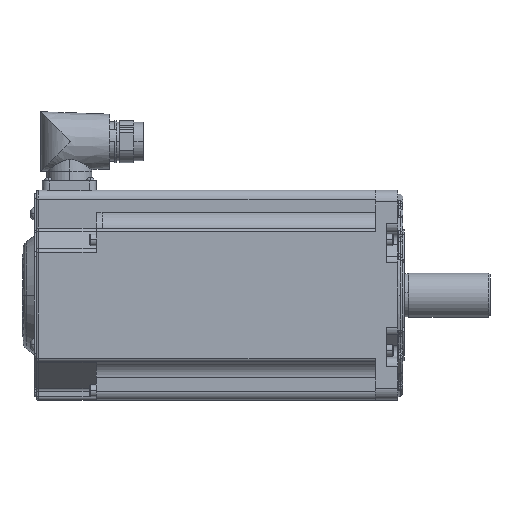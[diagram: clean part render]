
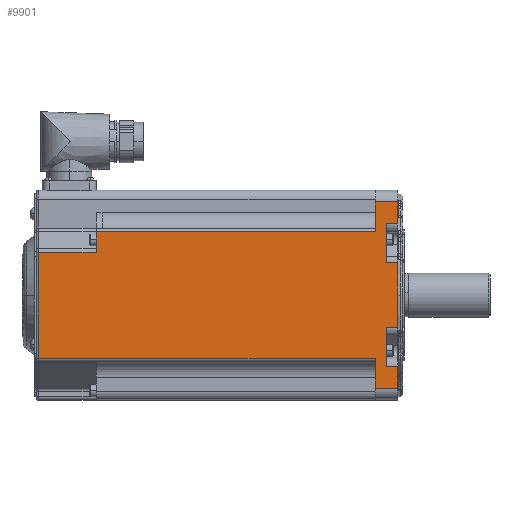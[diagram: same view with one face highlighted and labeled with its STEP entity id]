
A CAD part, top view. The second image highlights one B-rep face of the part: STEP entity #9901.
In plain terms, the highlighted planar face has unit normal (0, 0, 1) as drawn and (0, 0, -1) by its records, which use the part's own axes.
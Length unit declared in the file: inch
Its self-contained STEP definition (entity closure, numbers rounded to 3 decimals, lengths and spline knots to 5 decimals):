
#151 = CARTESIAN_POINT ( 'NONE',  ( 0., -0.69135, -2.24 ) ) ;
#507 = DIRECTION ( 'NONE',  ( 0., 1., 0. ) ) ;
#558 = CARTESIAN_POINT ( 'NONE',  ( -0.25, -0.69135, -2.24 ) ) ;
#1227 = ORIENTED_EDGE ( 'NONE', *, *, #20213, .T. ) ;
#1403 = DIRECTION ( 'NONE',  ( -1., 0., 0. ) ) ;
#1500 = CARTESIAN_POINT ( 'NONE',  ( -0.48, -1.3525, -2.24 ) ) ;
#1753 = VECTOR ( 'NONE', #5593, 39.37008 ) ;
#2280 = VERTEX_POINT ( 'NONE', #9416 ) ;
#2391 = DIRECTION ( 'NONE',  ( 0., 0., 1. ) ) ;
#2612 = VERTEX_POINT ( 'NONE', #24637 ) ;
#2756 = EDGE_CURVE ( 'NONE', #5491, #10014, #5465, .T. ) ;
#3618 = VERTEX_POINT ( 'NONE', #30075 ) ;
#4025 = VECTOR ( 'NONE', #507, 39.37008 ) ;
#4135 = CARTESIAN_POINT ( 'NONE',  ( -6.32, -0.69135, -2.24 ) ) ;
#4144 = EDGE_CURVE ( 'NONE', #2612, #28280, #30537, .T. ) ;
#4238 = CARTESIAN_POINT ( 'NONE',  ( 0., -2.24, -2.24 ) ) ;
#4408 = VECTOR ( 'NONE', #17125, 39.37008 ) ;
#4487 = EDGE_CURVE ( 'NONE', #3618, #5535, #26215, .T. ) ;
#4895 = VECTOR ( 'NONE', #1403, 39.37008 ) ;
#5026 = PLANE ( 'NONE',  #15337 ) ;
#5139 = FACE_OUTER_BOUND ( 'NONE', #5259, .T. ) ;
#5259 = EDGE_LOOP ( 'NONE', ( #24195, #9569, #6718, #1227, #20415, #12500, #25222, #25368, #26573, #34535, #27237, #25942, #17653, #25450, #24479, #7135, #9747, #28902 ) ) ;
#5465 = LINE ( 'NONE', #23311, #27209 ) ;
#5491 = VERTEX_POINT ( 'NONE', #6765 ) ;
#5535 = VERTEX_POINT ( 'NONE', #7147 ) ;
#5536 = LINE ( 'NONE', #24581, #26435 ) ;
#5593 = DIRECTION ( 'NONE',  ( 1., 0., 0. ) ) ;
#5610 = VECTOR ( 'NONE', #10904, 39.37008 ) ;
#5719 = CARTESIAN_POINT ( 'NONE',  ( -0.48, -2.24, -2.24 ) ) ;
#5935 = LINE ( 'NONE', #20792, #19573 ) ;
#6034 = LINE ( 'NONE', #18537, #13301 ) ;
#6480 = DIRECTION ( 'NONE',  ( 0., -1., 0. ) ) ;
#6718 = ORIENTED_EDGE ( 'NONE', *, *, #7869, .T. ) ;
#6765 = CARTESIAN_POINT ( 'NONE',  ( -0.25, 0.69135, -2.24 ) ) ;
#6988 = DIRECTION ( 'NONE',  ( 0., 1., 0. ) ) ;
#7135 = ORIENTED_EDGE ( 'NONE', *, *, #10505, .T. ) ;
#7147 = CARTESIAN_POINT ( 'NONE',  ( -6.445, -1.3525, -2.24 ) ) ;
#7540 = CARTESIAN_POINT ( 'NONE',  ( 0., 1.52798, -2.24 ) ) ;
#7601 = CARTESIAN_POINT ( 'NONE',  ( 0., -1.99, -2.24 ) ) ;
#7869 = EDGE_CURVE ( 'NONE', #10007, #22041, #31772, .T. ) ;
#8039 = VERTEX_POINT ( 'NONE', #10802 ) ;
#8163 = DIRECTION ( 'NONE',  ( 1., 0., 0. ) ) ;
#9210 = CARTESIAN_POINT ( 'NONE',  ( 0., -1.52798, -2.24 ) ) ;
#9416 = CARTESIAN_POINT ( 'NONE',  ( -0.25, -1.52798, -2.24 ) ) ;
#9425 = EDGE_CURVE ( 'NONE', #2280, #34692, #20125, .T. ) ;
#9443 = EDGE_CURVE ( 'NONE', #27505, #8039, #20980, .T. ) ;
#9446 = VERTEX_POINT ( 'NONE', #151 ) ;
#9529 = VECTOR ( 'NONE', #8163, 39.37008 ) ;
#9569 = ORIENTED_EDGE ( 'NONE', *, *, #10931, .T. ) ;
#9747 = ORIENTED_EDGE ( 'NONE', *, *, #26543, .F. ) ;
#9901 = ADVANCED_FACE ( 'NONE', ( #5139 ), #5026, .F. ) ;
#10007 = VERTEX_POINT ( 'NONE', #27399 ) ;
#10014 = VERTEX_POINT ( 'NONE', #33095 ) ;
#10191 = DIRECTION ( 'NONE',  ( -1., 0., 0. ) ) ;
#10505 = EDGE_CURVE ( 'NONE', #9446, #30870, #26664, .T. ) ;
#10802 = CARTESIAN_POINT ( 'NONE',  ( 0., 1.99, -2.24 ) ) ;
#10821 = LINE ( 'NONE', #11662, #4408 ) ;
#10904 = DIRECTION ( 'NONE',  ( 1., 0., 0. ) ) ;
#10920 = VECTOR ( 'NONE', #31882, 39.37008 ) ;
#10931 = EDGE_CURVE ( 'NONE', #23953, #10007, #10821, .T. ) ;
#11260 = VERTEX_POINT ( 'NONE', #35034 ) ;
#11309 = LINE ( 'NONE', #30184, #4025 ) ;
#11406 = CARTESIAN_POINT ( 'NONE',  ( -0.48, 1.99, -2.24 ) ) ;
#11662 = CARTESIAN_POINT ( 'NONE',  ( -6.32, -1.99, -2.24 ) ) ;
#11758 = VECTOR ( 'NONE', #6480, 39.37008 ) ;
#12492 = DIRECTION ( 'NONE',  ( 0., 1., 0. ) ) ;
#12500 = ORIENTED_EDGE ( 'NONE', *, *, #15031, .T. ) ;
#13007 = EDGE_CURVE ( 'NONE', #24485, #33469, #19129, .T. ) ;
#13047 = CARTESIAN_POINT ( 'NONE',  ( -7.68, -0.91, -2.24 ) ) ;
#13301 = VECTOR ( 'NONE', #10191, 39.37008 ) ;
#14893 = VECTOR ( 'NONE', #17837, 39.37008 ) ;
#15031 = EDGE_CURVE ( 'NONE', #3618, #24485, #5536, .T. ) ;
#15337 = AXIS2_PLACEMENT_3D ( 'NONE', #35017, #2391, #21478 ) ;
#16335 = DIRECTION ( 'NONE',  ( -1., 0., 0. ) ) ;
#16372 = CARTESIAN_POINT ( 'NONE',  ( -6.32, -1.3525, -2.24 ) ) ;
#17125 = DIRECTION ( 'NONE',  ( -1., 0., 0. ) ) ;
#17646 = VECTOR ( 'NONE', #24621, 39.37008 ) ;
#17653 = ORIENTED_EDGE ( 'NONE', *, *, #2756, .F. ) ;
#17837 = DIRECTION ( 'NONE',  ( 1., 0., 0. ) ) ;
#18537 = CARTESIAN_POINT ( 'NONE',  ( -6.32, 1.52798, -2.24 ) ) ;
#19129 = LINE ( 'NONE', #25503, #32745 ) ;
#19235 = DIRECTION ( 'NONE',  ( 0., 1., 0. ) ) ;
#19573 = VECTOR ( 'NONE', #26374, 39.37008 ) ;
#19648 = LINE ( 'NONE', #4238, #34088 ) ;
#20125 = LINE ( 'NONE', #32677, #5610 ) ;
#20213 = EDGE_CURVE ( 'NONE', #22041, #5535, #25745, .T. ) ;
#20415 = ORIENTED_EDGE ( 'NONE', *, *, #4487, .F. ) ;
#20792 = CARTESIAN_POINT ( 'NONE',  ( 0., -2.24, -2.24 ) ) ;
#20980 = LINE ( 'NONE', #32794, #33713 ) ;
#21172 = EDGE_CURVE ( 'NONE', #5491, #11260, #33283, .T. ) ;
#21478 = DIRECTION ( 'NONE',  ( 0., -1., 0. ) ) ;
#21728 = CARTESIAN_POINT ( 'NONE',  ( -6.32, 1.3525, -2.24 ) ) ;
#22030 = EDGE_CURVE ( 'NONE', #28280, #8039, #22153, .T. ) ;
#22041 = VERTEX_POINT ( 'NONE', #1500 ) ;
#22054 = CARTESIAN_POINT ( 'NONE',  ( -6.32, 0.69135, -2.24 ) ) ;
#22063 = DIRECTION ( 'NONE',  ( 0., 1., 0. ) ) ;
#22153 = LINE ( 'NONE', #28670, #14893 ) ;
#23168 = LINE ( 'NONE', #21728, #9529 ) ;
#23311 = CARTESIAN_POINT ( 'NONE',  ( -0.25, 0.7742, -2.24 ) ) ;
#23953 = VERTEX_POINT ( 'NONE', #7601 ) ;
#23984 = EDGE_CURVE ( 'NONE', #27505, #10014, #6034, .T. ) ;
#24195 = ORIENTED_EDGE ( 'NONE', *, *, #28456, .F. ) ;
#24479 = ORIENTED_EDGE ( 'NONE', *, *, #35333, .F. ) ;
#24485 = VERTEX_POINT ( 'NONE', #13047 ) ;
#24581 = CARTESIAN_POINT ( 'NONE',  ( -6.32, -0.91, -2.24 ) ) ;
#24621 = DIRECTION ( 'NONE',  ( -1., 0., 0. ) ) ;
#24637 = CARTESIAN_POINT ( 'NONE',  ( -0.48, 1.3525, -2.24 ) ) ;
#25222 = ORIENTED_EDGE ( 'NONE', *, *, #13007, .T. ) ;
#25368 = ORIENTED_EDGE ( 'NONE', *, *, #27181, .T. ) ;
#25450 = ORIENTED_EDGE ( 'NONE', *, *, #21172, .T. ) ;
#25503 = CARTESIAN_POINT ( 'NONE',  ( -7.68, 1.3525, -2.24 ) ) ;
#25745 = LINE ( 'NONE', #16372, #17646 ) ;
#25942 = ORIENTED_EDGE ( 'NONE', *, *, #23984, .T. ) ;
#26215 = LINE ( 'NONE', #28273, #11758 ) ;
#26374 = DIRECTION ( 'NONE',  ( 0., 1., 0. ) ) ;
#26419 = CARTESIAN_POINT ( 'NONE',  ( -0.48, -2.24, -2.24 ) ) ;
#26435 = VECTOR ( 'NONE', #16335, 39.37008 ) ;
#26543 = EDGE_CURVE ( 'NONE', #2280, #30870, #11309, .T. ) ;
#26573 = ORIENTED_EDGE ( 'NONE', *, *, #4144, .T. ) ;
#26664 = LINE ( 'NONE', #4135, #4895 ) ;
#27181 = EDGE_CURVE ( 'NONE', #33469, #2612, #23168, .T. ) ;
#27209 = VECTOR ( 'NONE', #6988, 39.37008 ) ;
#27237 = ORIENTED_EDGE ( 'NONE', *, *, #9443, .F. ) ;
#27399 = CARTESIAN_POINT ( 'NONE',  ( -0.48, -1.99, -2.24 ) ) ;
#27505 = VERTEX_POINT ( 'NONE', #7540 ) ;
#27981 = VECTOR ( 'NONE', #22063, 39.37008 ) ;
#28140 = DIRECTION ( 'NONE',  ( 0., 1., 0. ) ) ;
#28273 = CARTESIAN_POINT ( 'NONE',  ( -6.445, -2.24, -2.24 ) ) ;
#28280 = VERTEX_POINT ( 'NONE', #11406 ) ;
#28456 = EDGE_CURVE ( 'NONE', #23953, #34692, #5935, .T. ) ;
#28670 = CARTESIAN_POINT ( 'NONE',  ( -6.32, 1.99, -2.24 ) ) ;
#28902 = ORIENTED_EDGE ( 'NONE', *, *, #9425, .T. ) ;
#30075 = CARTESIAN_POINT ( 'NONE',  ( -6.445, -0.91, -2.24 ) ) ;
#30184 = CARTESIAN_POINT ( 'NONE',  ( -0.25, -0.7742, -2.24 ) ) ;
#30537 = LINE ( 'NONE', #5719, #27981 ) ;
#30870 = VERTEX_POINT ( 'NONE', #558 ) ;
#31772 = LINE ( 'NONE', #26419, #10920 ) ;
#31882 = DIRECTION ( 'NONE',  ( 0., 1., 0. ) ) ;
#32366 = CARTESIAN_POINT ( 'NONE',  ( -7.68, 1.3525, -2.24 ) ) ;
#32677 = CARTESIAN_POINT ( 'NONE',  ( -6.32, -1.52798, -2.24 ) ) ;
#32745 = VECTOR ( 'NONE', #28140, 39.37008 ) ;
#32794 = CARTESIAN_POINT ( 'NONE',  ( 0., -2.24, -2.24 ) ) ;
#33095 = CARTESIAN_POINT ( 'NONE',  ( -0.25, 1.52798, -2.24 ) ) ;
#33283 = LINE ( 'NONE', #22054, #1753 ) ;
#33469 = VERTEX_POINT ( 'NONE', #32366 ) ;
#33713 = VECTOR ( 'NONE', #19235, 39.37008 ) ;
#34088 = VECTOR ( 'NONE', #12492, 39.37008 ) ;
#34535 = ORIENTED_EDGE ( 'NONE', *, *, #22030, .T. ) ;
#34692 = VERTEX_POINT ( 'NONE', #9210 ) ;
#35017 = CARTESIAN_POINT ( 'NONE',  ( -6.32, 1.415, -2.24 ) ) ;
#35034 = CARTESIAN_POINT ( 'NONE',  ( 0., 0.69135, -2.24 ) ) ;
#35333 = EDGE_CURVE ( 'NONE', #9446, #11260, #19648, .T. ) ;
